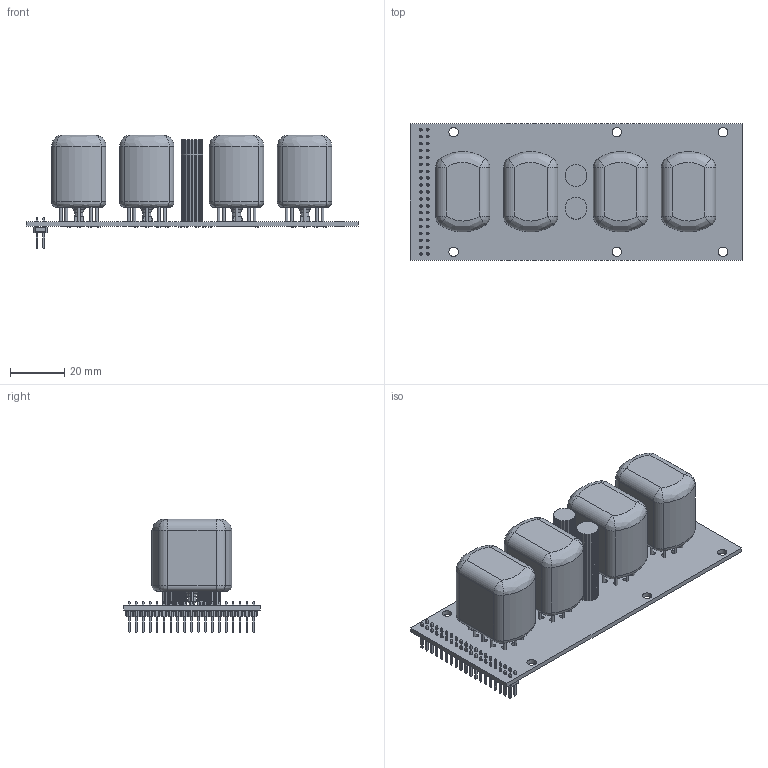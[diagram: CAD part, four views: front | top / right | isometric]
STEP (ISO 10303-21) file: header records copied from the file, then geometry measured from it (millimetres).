
FILE_DESCRIPTION(('Open CASCADE Model'),'2;1');
FILE_NAME('Open CASCADE Shape Model','2020-11-05T18:44:56',('Author'),( 'Open CASCADE'),'Open CASCADE STEP processor 6.8','Open CASCADE 6.8' ,'Unknown');
FILE_SCHEMA(('AUTOMOTIVE_DESIGN { 1 0 10303 214 1 1 1 1 }'));
Products named in the file (1): PCB
Bounding box: 122 x 50 x 41.7 mm (x, y, z)
Volume: 69731 mm3; surface area: 35501.3 mm2
Topology: 19 solids, 1383 shells, 2662 faces, 9436 edges, 7988 vertices
Faces by surface type: plane 1626, cylinder 708, sphere 144, cone 128, bspline 44, revolution 12
Full cylindrical faces by diameter (mm): 0.9 x42, 1.6 x48, 3.5 x6, 4 x4
Entity records: 111211 total; most frequent: CARTESIAN_POINT 20967, DIRECTION 16310, ORIENTED_EDGE 12016, EDGE_CURVE 9292, VERTEX_POINT 7988, LINE 7444, VECTOR 7444, AXIS2_PLACEMENT_3D 4427
